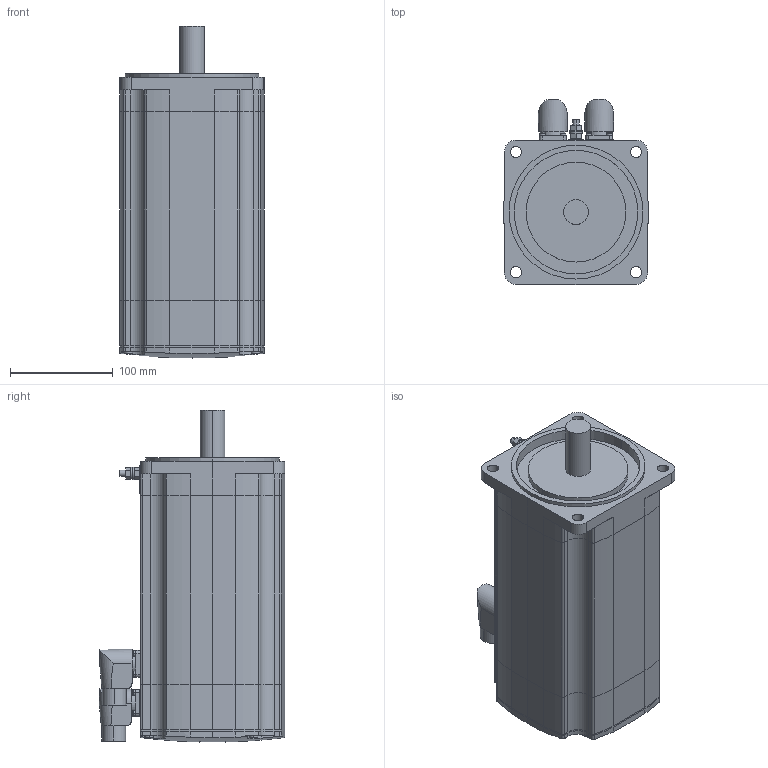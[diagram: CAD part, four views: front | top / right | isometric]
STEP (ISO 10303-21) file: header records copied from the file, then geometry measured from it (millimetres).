
FILE_DESCRIPTION (( 'STEP AP214' ), '1' );
FILE_NAME ('SH31402x0xA2100.STEP', '2013-11-29T10:09:13', ( 'Windows User' ), ( 'Schneider-Electric' ), 'SwSTEP 2.0', 'SolidWorks 2010', '' );
FILE_SCHEMA (( 'AUTOMOTIVE_DESIGN' ));
Length unit declared in the file: millimetre
Products named in the file (9): 1-100005039_DECKEL SH3-140X-X_VM0_Deckel; 1-100010983_K-FLACHDICHTUNG BMH-MH3-140X_000; 1-100009292_LAGERSCHILD SH3-140X-A_VM0_Lagerschild SH3-140x-A; 1-100010761_K-GEHÄUSE SH3-140X_VM0_Gehäuse SH3-1402-A-M23; 1-100010773_K-FLANSCH SH3-140X_VM0_Flansch SH3-140x mit Welle ohne Passfeder; 1-100009587_K-ERDUNGSBOLZEN M6_VM1; K-POWER-CONINVERS-ABGEWIN_POWER-CONINVERS-ABGEWINKELT_000_mit Bremse; K-ENCODER-CONINVERS-ABGEW_ENCODER-CONINVERS-ABGEWINKELT_000_Single- MultiTurn; SH31402x0xA2100
Assembly tree (8 placements, depth 2):
  SH31402x0xA2100
    1-100010761_K-GEHÄUSE SH3-140X_VM0_Gehäuse SH3-1402-A-M23
    1-100010773_K-FLANSCH SH3-140X_VM0_Flansch SH3-140x mit Welle ohne Passfeder
    1-100009587_K-ERDUNGSBOLZEN M6_VM1
    K-POWER-CONINVERS-ABGEWIN_POWER-CONINVERS-ABGEWINKELT_000_mit Bremse
    K-ENCODER-CONINVERS-ABGEW_ENCODER-CONINVERS-ABGEWINKELT_000_Single- MultiTurn
    1-100010983_K-FLACHDICHTUNG BMH-MH3-140X_000
    1-100005039_DECKEL SH3-140X-X_VM0_Deckel
    1-100009292_LAGERSCHILD SH3-140X-A_VM0_Lagerschild SH3-140x-A
Bounding box: 140 x 179.9 x 322.35 mm (x, y, z)
Volume: 4741050.5 mm3; surface area: 344229.2 mm2
Topology: 8 solids, 8 shells, 469 faces, 1169 edges, 770 vertices
Faces by surface type: cylinder 249, plane 196, torus 16, sphere 4, bspline 4
Entity records: 15681 total; most frequent: CARTESIAN_POINT 3675, DIRECTION 2604, ORIENTED_EDGE 2338, EDGE_CURVE 1169, AXIS2_PLACEMENT_3D 1009, VERTEX_POINT 770, LINE 586, VECTOR 586
